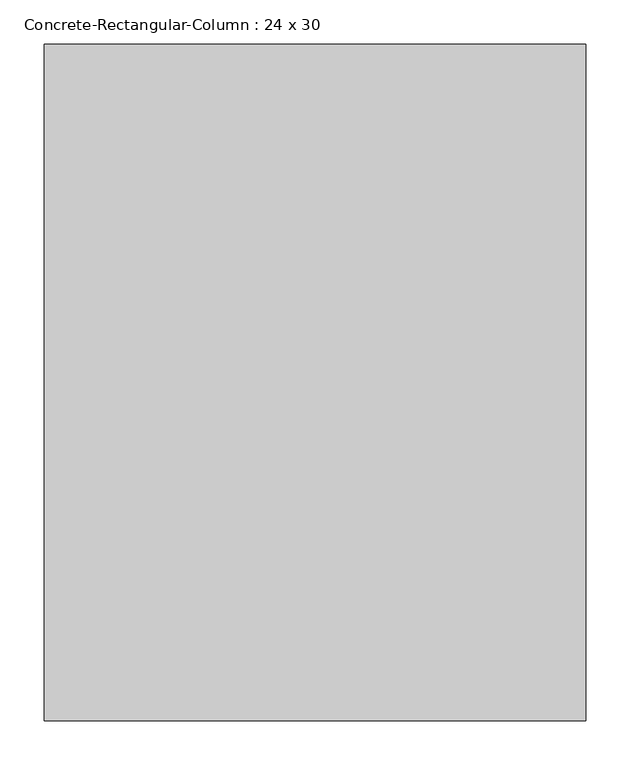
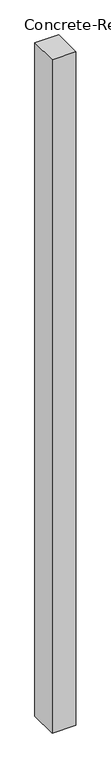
"""IFC4 building model written with IfcOpenShell, lengths in millimetres: column geometry, Concrete-Rectangular-Column : 24 x 30."""

from ifc_helpers import new_model, si_unit, origin, origin_with_axes, place, context, project, spatial, polyline, outline, extrude, source, transform, mapped, element, save


def concrete_rectangular_column_24_x_30_a0fa8d21(model_context):
    return source(origin(), model_context, "Body", "SweptSolid", [
        extrude(outline(polyline([(304.8, 381.0), (304.8, -381.0), (-304.8, -381.0), (-304.8, 381.0), (304.8, 381.0)])), origin_with_axes(), (0.0, 0.0, 1.0), 18288.0),
    ])


if __name__ == "__main__":
    model = new_model("IFC4")
    model_context = context("Model", 3, world=origin())
    ifc_project = project(units=[si_unit("LENGTHUNIT", "METRE", prefix="MILLI")], contexts=[model_context])
    site = spatial("IfcSite", under=ifc_project)
    building = spatial("IfcBuilding", under=site)
    placement = place(None, origin())
    concrete_rectangular_column_24_x_30_shape = concrete_rectangular_column_24_x_30_a0fa8d21(model_context)
    element("IfcColumn", 1, ObjectType="Concrete-Rectangular-Column : 24 x 30", at=placement, inside=building, context=model_context, shape_type="MappedRepresentation", body=[
        mapped(concrete_rectangular_column_24_x_30_shape, transform((0.0, 0.0, 0.0), x_axis=(1.0, 0.0, 0.0), y_axis=(0.0, 1.0, 0.0), z_axis=(0.0, 0.0, 1.0))),
    ])
    save(model, "model.ifc")
